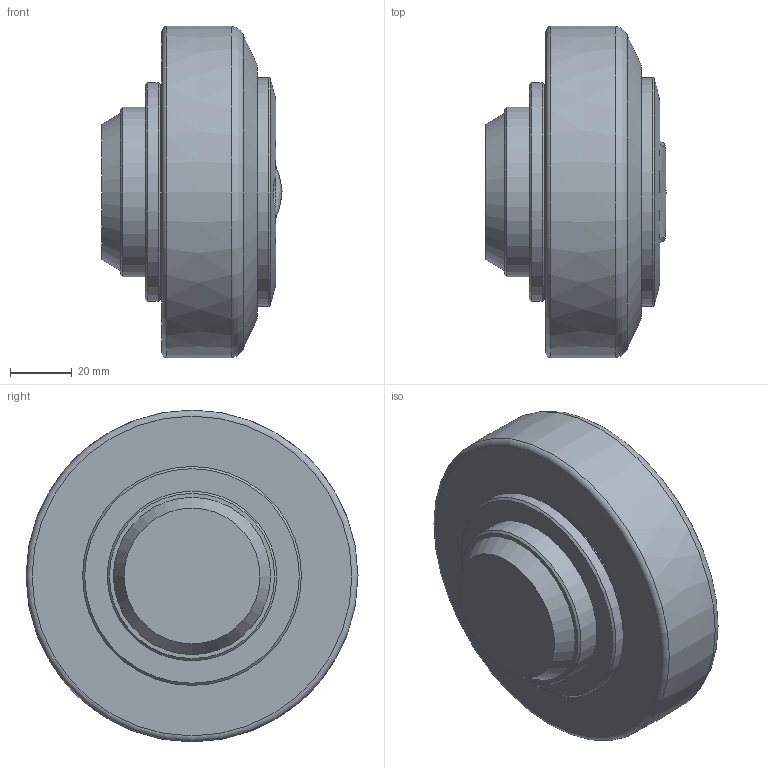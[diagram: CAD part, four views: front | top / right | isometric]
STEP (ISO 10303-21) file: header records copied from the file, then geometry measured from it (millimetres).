
FILE_DESCRIPTION(/* description */ (''),/* implementation_level */ '2;1');
FILE_NAME(/* name */ 'C:\Users\manolo mussida\Desktop\400-0078-L.stp',/* time_stamp */ '2022-06-28T11:03:11+02:00',/* author */ ('manolo mussida'),/* organization */ ('C.R. srl'),/* preprocessor_version */ 'ST-DEVELOPER v18.1',/* originating_system */ 'Autodesk Inventor 2022',/* authorisation */ '');
FILE_SCHEMA (('AUTOMOTIVE_DESIGN { 1 0 10303 214 3 1 1 }'));
Length unit declared in the file: millimetre
Products named in the file (1): 400-0078-L.ipt
Bounding box: 58.4 x 107.7 x 107.69 mm (x, y, z)
Volume: 344344.9 mm3; surface area: 31188.5 mm2
Topology: 1 solids, 1 shells, 42 faces, 98 edges, 66 vertices
Faces by surface type: plane 23, cylinder 6, cone 6, bspline 4, torus 3
Full cylindrical faces by diameter (mm): 10.7 x2, 55 x1, 69 x1, 71 x1, 74 x1
Entity records: 1708 total; most frequent: CARTESIAN_POINT 688, DIRECTION 200, ORIENTED_EDGE 196, EDGE_CURVE 98, AXIS2_PLACEMENT_3D 76, VERTEX_POINT 66, EDGE_LOOP 50, LINE 48
